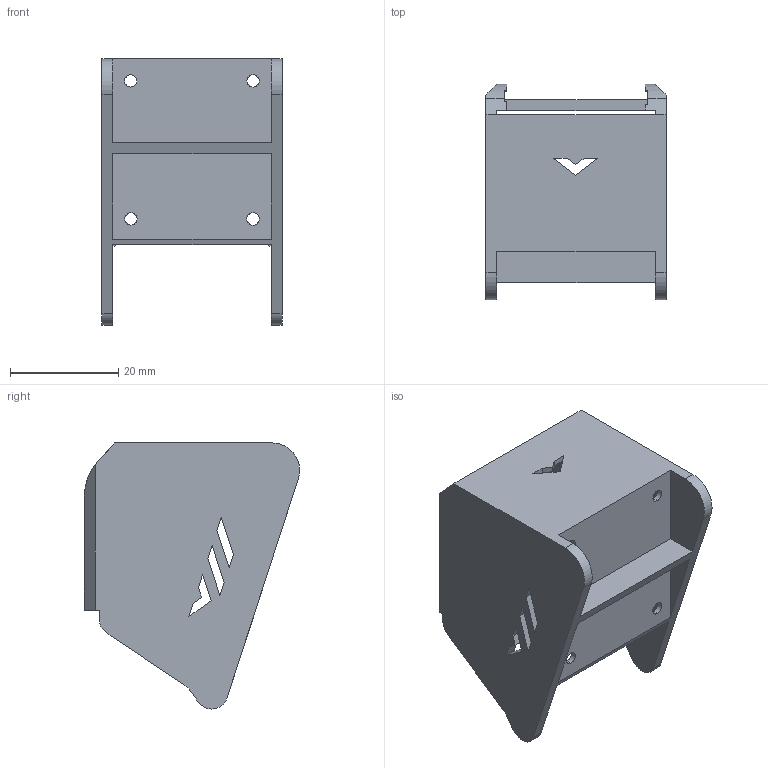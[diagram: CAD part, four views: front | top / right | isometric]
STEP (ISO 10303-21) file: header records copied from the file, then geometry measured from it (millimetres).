
FILE_DESCRIPTION (( 'STEP AP203' ), '1' );
FILE_NAME ('褲极1.3 11.6.STEP', '2024-11-06T03:37:22', ( '' ), ( '' ), 'SwSTEP 2.0', 'SolidWorks 2017', '' );
FILE_SCHEMA (( 'CONFIG_CONTROL_DESIGN' ));
Length unit declared in the file: millimetre
Products named in the file (1): 褲极1.3 11.6
Bounding box: 33.24 x 39.71 x 49.05 mm (x, y, z)
Volume: 8001.8 mm3; surface area: 10582.1 mm2
Topology: 1 solids, 1 shells, 121 faces, 356 edges, 236 vertices
Faces by surface type: plane 98, cylinder 23
Entity records: 4111 total; most frequent: CARTESIAN_POINT 720, ORIENTED_EDGE 712, DIRECTION 646, EDGE_CURVE 356, VECTOR 306, LINE 306, VERTEX_POINT 236, AXIS2_PLACEMENT_3D 170
